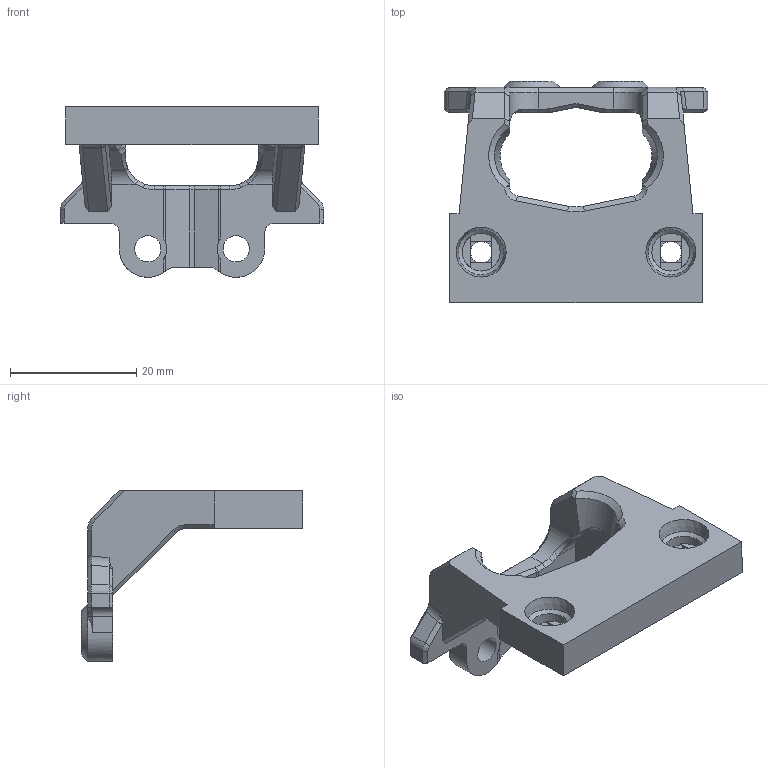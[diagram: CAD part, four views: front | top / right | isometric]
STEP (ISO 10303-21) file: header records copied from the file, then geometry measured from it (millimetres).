
FILE_DESCRIPTION(/* description */ (''),/* implementation_level */ '2;1');
FILE_NAME(/* name */ 'HMG7-Phaetus-TaiChi-Mount.step',/* time_stamp */ '2022-11-01T21:59:02-07:00',/* author */ (''),/* organization */ (''),/* preprocessor_version */ 'ST-DEVELOPER v19.2',/* originating_system */ 'Autodesk Translation Framework v11.17.0.187',/* authorisation */ '');
FILE_SCHEMA (('AUTOMOTIVE_DESIGN { 1 0 10303 214 3 1 1 }'));
Length unit declared in the file: millimetre
Products named in the file (3): GEN_7_1.5; Phaetus_Taichi; Taichi_Mount
Assembly tree (2 placements, depth 3):
  GEN_7_1.5
    Phaetus_Taichi
      Taichi_Mount
Bounding box: 41.64 x 35.06 x 26.99 mm (x, y, z)
Volume: 7066.5 mm3; surface area: 4414.9 mm2
Topology: 1 solids, 1 shells, 219 faces, 574 edges, 355 vertices
Faces by surface type: plane 106, bspline 44, cylinder 40, cone 29
Full cylindrical faces by diameter (mm): 3.4 x2, 4.15 x2, 6 x2
Entity records: 7574 total; most frequent: CARTESIAN_POINT 2388, ORIENTED_EDGE 1148, DIRECTION 934, EDGE_CURVE 574, VERTEX_POINT 355, LINE 342, VECTOR 342, AXIS2_PLACEMENT_3D 296
